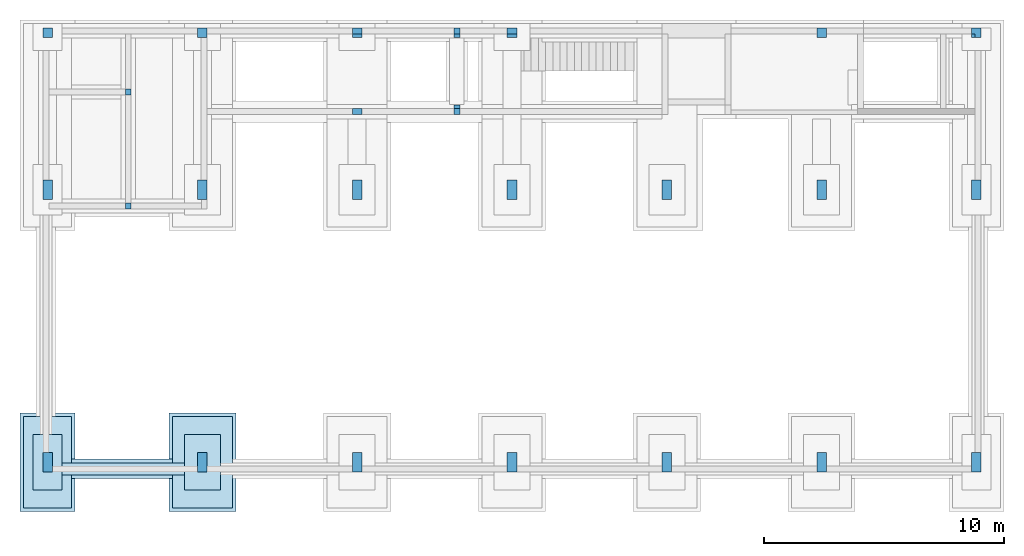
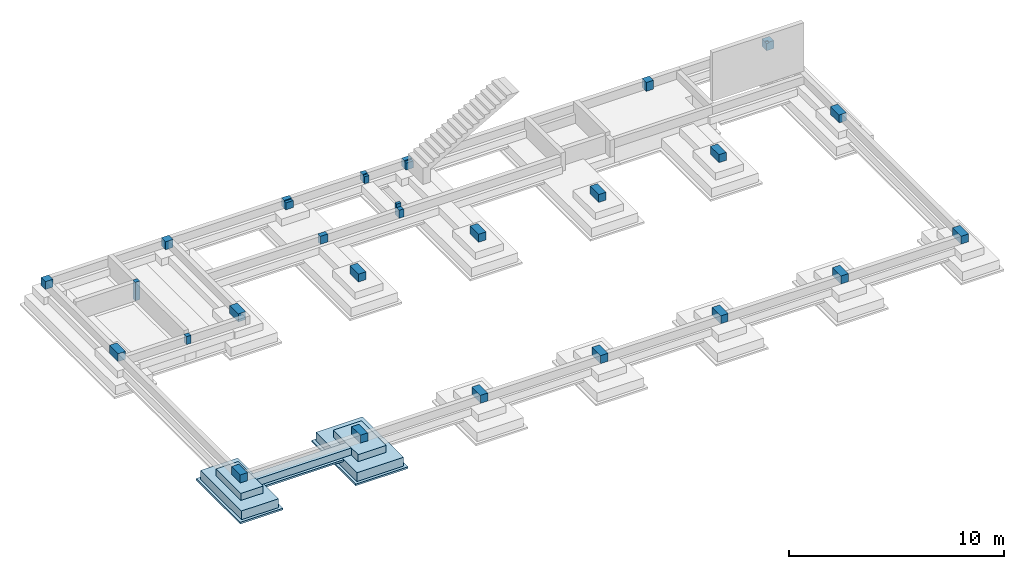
# One storey, part 1 of 6: 28 columns, 8 slabs.
"""IFC2X3 building model written with IfcOpenShell, lengths in centimetres."""

from ifc_helpers import new_model, entity, si_unit, converted_unit, derived_unit, direction, frame, frame_2d, origin, origin_2d_with_axis, place, context, subcontext, project, spatial, rectangle, extrude, faceted_brep, source, transform, mapped, material, layer, layer_set, layer_usage, type_object, type_shapes, element, save


model = new_model("IFC2X3")

# Units and contexts
model_context = context("Model", 3, precision=0.001, world=origin(), true_north=direction((6.12303176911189e-17, 1.0)))
body_context = subcontext(model_context, "Body", "Model", "MODEL_VIEW")
ifc_project = project(units=[si_unit("LENGTHUNIT", "METRE", prefix="CENTI"), si_unit("AREAUNIT", "SQUARE_METRE"), si_unit("VOLUMEUNIT", "CUBIC_METRE"), converted_unit("PLANEANGLEUNIT", "DEGREE", entity("IfcRatioMeasure", 0.0174532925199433), si_unit("PLANEANGLEUNIT", "RADIAN"), dimensions=[0, 0, 0, 0, 0, 0, 0]), si_unit("MASSUNIT", "GRAM", prefix="KILO"), derived_unit("MASSDENSITYUNIT", [(si_unit("MASSUNIT", "GRAM", prefix="KILO"), 1), (si_unit("LENGTHUNIT", "METRE"), -3)]), derived_unit("MOMENTOFINERTIAUNIT", [(si_unit("LENGTHUNIT", "METRE"), 4)]), si_unit("TIMEUNIT", "SECOND"), si_unit("FREQUENCYUNIT", "HERTZ"), si_unit("THERMODYNAMICTEMPERATUREUNIT", "DEGREE_CELSIUS"), derived_unit("THERMALTRANSMITTANCEUNIT", [(si_unit("MASSUNIT", "GRAM", prefix="KILO"), 1), (si_unit("THERMODYNAMICTEMPERATUREUNIT", "KELVIN"), -1), (si_unit("TIMEUNIT", "SECOND"), -3)]), derived_unit("VOLUMETRICFLOWRATEUNIT", [(si_unit("LENGTHUNIT", "METRE"), 3), (si_unit("TIMEUNIT", "SECOND"), -1)]), si_unit("ELECTRICCURRENTUNIT", "AMPERE"), si_unit("ELECTRICVOLTAGEUNIT", "VOLT"), si_unit("POWERUNIT", "WATT"), si_unit("FORCEUNIT", "NEWTON", prefix="KILO"), si_unit("ILLUMINANCEUNIT", "LUX"), si_unit("LUMINOUSFLUXUNIT", "LUMEN"), si_unit("LUMINOUSINTENSITYUNIT", "CANDELA"), derived_unit("USERDEFINED", [(si_unit("MASSUNIT", "GRAM", prefix="KILO"), -1), (si_unit("LENGTHUNIT", "METRE"), -2), (si_unit("TIMEUNIT", "SECOND"), 3), (si_unit("LUMINOUSFLUXUNIT", "LUMEN"), 1)]), derived_unit("LINEARVELOCITYUNIT", [(si_unit("LENGTHUNIT", "METRE"), 1), (si_unit("TIMEUNIT", "SECOND"), -1)]), si_unit("PRESSUREUNIT", "PASCAL"), derived_unit("USERDEFINED", [(si_unit("LENGTHUNIT", "METRE"), -2), (si_unit("MASSUNIT", "GRAM", prefix="KILO"), 1), (si_unit("TIMEUNIT", "SECOND"), -2)]), derived_unit("LINEARFORCEUNIT", [(si_unit("MASSUNIT", "GRAM", prefix="KILO"), 1), (si_unit("LENGTHUNIT", "METRE"), 1), (si_unit("TIMEUNIT", "SECOND"), -2), (si_unit("LENGTHUNIT", "METRE"), -1)]), derived_unit("PLANARFORCEUNIT", [(si_unit("MASSUNIT", "GRAM", prefix="KILO"), 1), (si_unit("LENGTHUNIT", "METRE"), 1), (si_unit("TIMEUNIT", "SECOND"), -2), (si_unit("LENGTHUNIT", "METRE"), -2)])], contexts=[model_context])

# Site, building, storey
site_placement = place(None, origin())
site = spatial("IfcSite", under=ifc_project, at=site_placement, Name="Default", CompositionType="ELEMENT")
building_placement = place(site_placement, origin())
building = spatial("IfcBuilding", under=site, at=building_placement, CompositionType="ELEMENT")
storey_placement = place(building_placement, frame((0.0, 0.0, -115.0)))
storey = spatial("IfcBuildingStorey", under=building, at=storey_placement, Name="Poziom Fundament -1,15", CompositionType="ELEMENT", Elevation=-115.0)

# Columns
ifc_material_1 = material(Name="_Beton, C25/30")
column_type_1 = type_object("IfcColumnType", Name="Beton-słup prostokątny:Słup żelbetowy 40x40cm", PredefinedType="COLUMN", material=ifc_material_1)
shared_shape_1 = source(origin(), body_context, "Body", "Brep", [
    faceted_brep([(40.0, 40.0, 0.0), (40.0, 0.0, 0.0), (15.0001164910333, 0.0, 0.0), (0.0, 0.0, 0.0), (0.0, 40.0, 0.0), (0.0, 40.0, 45.0), (40.0, 40.0, 45.0), (0.0, 0.0, 40.0), (0.0, 15.0000191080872, 40.0), (0.0, 15.0000191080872, 45.0), (40.0, 0.0, 45.0), (15.000003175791, 0.0, 45.0), (15.0000031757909, 0.0, 40.0), (15.000003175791, 15.0000191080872, 45.0), (15.000003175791, 15.0000191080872, 40.0)], [[[0, 1, 2, 3, 4]], [[0, 4, 5, 6]], [[4, 3, 7, 8, 9, 5]], [[3, 2, 1, 10, 11, 12, 7]], [[1, 0, 6, 10]], [[6, 5, 9, 13, 11, 10]], [[14, 8, 7, 12]], [[8, 14, 13, 9]], [[14, 12, 11, 13]]]),
])
type_shapes(column_type_1, [shared_shape_1])
column_1_placement = place(storey_placement, frame((935.734894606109, 2065.12743150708, 40.0)))
element("IfcColumn", 1, at=column_1_placement, inside=storey, type_object=column_type_1, material=ifc_material_1, Name="Beton-słup prostokątny:Słup żelbetowy 40x40cm", ObjectType="Beton-słup prostokątny:Słup żelbetowy 40x40cm", context=body_context, shape_type="MappedRepresentation", body=[
    mapped(shared_shape_1, transform((0.0, 0.0, 0.0), scale=1.0)),
])
column_type_2 = type_object("IfcColumnType", Name="Beton-słup prostokątny:Słup 40 x 80 cm", PredefinedType="COLUMN", material=ifc_material_1)
shared_shape_2 = source(origin(), body_context, "Body", "SweptSolid", [
    extrude(rectangle(XDim=80.0, YDim=40.0, at=origin_2d_with_axis()), frame((310.734891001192, 295.127431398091, -75.0), z_axis=(0.0, 0.0, 1.0), x_axis=(0.0, -1.0, 0.0)), (0.0, 0.0, 1.0), 45.0000000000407),
])
type_shapes(column_type_2, [shared_shape_2])
column_2_placement = place(storey_placement, frame((0.0, 0.0, 115.0)))
element("IfcColumn", 2, at=column_2_placement, inside=storey, type_object=column_type_2, Name="Beton-słup prostokątny:Słup 40 x 80 cm", ObjectType="Beton-słup prostokątny:Słup 40 x 80 cm", context=body_context, shape_type="MappedRepresentation", body=[
    mapped(shared_shape_2, transform((0.0, 0.0, 0.0), scale=1.0)),
])
column_type_3 = type_object("IfcColumnType", Name="Beton-słup prostokątny:Słup 40 x 80 cm", PredefinedType="COLUMN", material=ifc_material_1)
shared_shape_3 = source(origin(), body_context, "Body", "SweptSolid", [
    extrude(rectangle(XDim=80.0, YDim=40.0, at=origin_2d_with_axis()), frame((-334.265108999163, 295.127431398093, -75.0), z_axis=(0.0, 0.0, 1.0), x_axis=(0.0, -1.0, 0.0)), (0.0, 0.0, 1.0), 45.0000000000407),
])
type_shapes(column_type_3, [shared_shape_3])
column_3_placement = place(storey_placement, frame((0.0, 0.0, 115.0)))
element("IfcColumn", 3, at=column_3_placement, inside=storey, type_object=column_type_3, Name="Beton-słup prostokątny:Słup 40 x 80 cm", ObjectType="Beton-słup prostokątny:Słup 40 x 80 cm", context=body_context, shape_type="MappedRepresentation", body=[
    mapped(shared_shape_3, transform((0.0, 0.0, 0.0), scale=1.0)),
])
column_type_4 = type_object("IfcColumnType", Name="Beton-słup prostokątny:Słup 40 x 80 cm", PredefinedType="COLUMN", material=ifc_material_1)
shared_shape_4 = source(origin(), body_context, "Body", "SweptSolid", [
    extrude(rectangle(XDim=80.0, YDim=40.0, at=origin_2d_with_axis()), frame((-979.265108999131, 295.127431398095, -75.0), z_axis=(0.0, 0.0, 1.0), x_axis=(0.0, -1.0, 0.0)), (0.0, 0.0, 1.0), 45.0000000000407),
])
type_shapes(column_type_4, [shared_shape_4])
column_4_placement = place(storey_placement, frame((0.0, 0.0, 115.0)))
element("IfcColumn", 4, at=column_4_placement, inside=storey, type_object=column_type_4, Name="Beton-słup prostokątny:Słup 40 x 80 cm", ObjectType="Beton-słup prostokątny:Słup 40 x 80 cm", context=body_context, shape_type="MappedRepresentation", body=[
    mapped(shared_shape_4, transform((0.0, 0.0, 0.0), scale=1.0)),
])
column_type_5 = type_object("IfcColumnType", Name="Beton-słup prostokątny:Słup 40 x 80 cm", PredefinedType="COLUMN", material=ifc_material_1)
shared_shape_5 = source(origin(), body_context, "Body", "SweptSolid", [
    extrude(rectangle(XDim=80.0, YDim=40.0, at=origin_2d_with_axis()), frame((-1624.26510899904, 295.127431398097, -75.0), z_axis=(0.0, 0.0, 1.0), x_axis=(0.0, -1.0, 0.0)), (0.0, 0.0, 1.0), 45.0000000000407),
])
type_shapes(column_type_5, [shared_shape_5])
column_5_placement = place(storey_placement, frame((0.0, 0.0, 115.0)))
element("IfcColumn", 5, at=column_5_placement, inside=storey, type_object=column_type_5, Name="Beton-słup prostokątny:Słup 40 x 80 cm", ObjectType="Beton-słup prostokątny:Słup 40 x 80 cm", context=body_context, shape_type="MappedRepresentation", body=[
    mapped(shared_shape_5, transform((0.0, 0.0, 0.0), scale=1.0)),
])
column_type_6 = type_object("IfcColumnType", Name="Beton-słup prostokątny:Słup 40 x 80 cm", PredefinedType="COLUMN", material=ifc_material_1)
shared_shape_6 = source(origin(), body_context, "Body", "SweptSolid", [
    extrude(rectangle(XDim=80.0, YDim=40.0, at=frame_2d((0.0, -2.16715534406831e-13), x_axis=(1.0, 0.0))), frame((-2269.26510899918, 295.127431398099, -75.0), z_axis=(0.0, 0.0, 1.0), x_axis=(0.0, -1.0, 0.0)), (0.0, 0.0, 1.0), 45.0000000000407),
])
type_shapes(column_type_6, [shared_shape_6])
column_6_placement = place(storey_placement, frame((0.0, 0.0, 115.0)))
element("IfcColumn", 6, at=column_6_placement, inside=storey, type_object=column_type_6, Name="Beton-słup prostokątny:Słup 40 x 80 cm", ObjectType="Beton-słup prostokątny:Słup 40 x 80 cm", context=body_context, shape_type="MappedRepresentation", body=[
    mapped(shared_shape_6, transform((0.0, 0.0, 0.0), scale=1.0)),
])
column_type_7 = type_object("IfcColumnType", Name="Beton-słup prostokątny:Słup 40 x 80 cm", PredefinedType="COLUMN", material=ifc_material_1)
shared_shape_7 = source(origin(), body_context, "Body", "SweptSolid", [
    extrude(rectangle(XDim=80.0, YDim=40.0, at=frame_2d((0.0, 2.16715534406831e-13), x_axis=(1.0, 0.0))), frame((-2914.26510657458, 295.127431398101, -75.0), z_axis=(0.0, 0.0, 1.0), x_axis=(0.0, -1.0, 0.0)), (0.0, 0.0, 1.0), 45.0000000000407),
])
type_shapes(column_type_7, [shared_shape_7])
column_7_placement = place(storey_placement, frame((0.0, 0.0, 115.0)))
element("IfcColumn", 7, at=column_7_placement, inside=storey, type_object=column_type_7, Name="Beton-słup prostokątny:Słup 40 x 80 cm", ObjectType="Beton-słup prostokątny:Słup 40 x 80 cm", context=body_context, shape_type="MappedRepresentation", body=[
    mapped(shared_shape_7, transform((0.0, 0.0, 0.0), scale=1.0)),
])
column_type_8 = type_object("IfcColumnType", Name="Beton-słup prostokątny:Słup 40 x 80 cm", PredefinedType="COLUMN", material=ifc_material_1)
shared_shape_8 = source(origin(), body_context, "Body", "SweptSolid", [
    extrude(rectangle(XDim=80.0, YDim=40.0, at=origin_2d_with_axis()), frame((955.734894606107, 295.127431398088, -75.0), z_axis=(0.0, 0.0, 1.0), x_axis=(0.0, -1.0, 0.0)), (0.0, 0.0, 1.0), 45.0000000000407),
])
type_shapes(column_type_8, [shared_shape_8])
column_8_placement = place(storey_placement, frame((0.0, 0.0, 115.0)))
element("IfcColumn", 8, at=column_8_placement, inside=storey, type_object=column_type_8, Name="Beton-słup prostokątny:Słup 40 x 80 cm", ObjectType="Beton-słup prostokątny:Słup 40 x 80 cm", context=body_context, shape_type="MappedRepresentation", body=[
    mapped(shared_shape_8, transform((0.0, 0.0, 0.0), scale=1.0)),
])
column_type_9 = type_object("IfcColumnType", Name="Beton-słup prostokątny:Słup 40 x 80 cm", PredefinedType="COLUMN", material=ifc_material_1)
shared_shape_9 = source(origin(), body_context, "Body", "SweptSolid", [
    extrude(rectangle(XDim=80.0, YDim=40.0, at=origin_2d_with_axis()), frame((955.734894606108, 1430.12743164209, -75.0), z_axis=(0.0, 0.0, 1.0), x_axis=(0.0, -1.0, 0.0)), (0.0, 0.0, 1.0), 45.0000000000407),
])
type_shapes(column_type_9, [shared_shape_9])
column_9_placement = place(storey_placement, frame((0.0, 0.0, 115.0)))
element("IfcColumn", 9, at=column_9_placement, inside=storey, type_object=column_type_9, Name="Beton-słup prostokątny:Słup 40 x 80 cm", ObjectType="Beton-słup prostokątny:Słup 40 x 80 cm", context=body_context, shape_type="MappedRepresentation", body=[
    mapped(shared_shape_9, transform((0.0, 0.0, 0.0), scale=1.0)),
])
column_type_10 = type_object("IfcColumnType", Name="Beton-słup prostokątny:Słup 40 x 80 cm", PredefinedType="COLUMN", material=ifc_material_1)
shared_shape_10 = source(origin(), body_context, "Body", "SweptSolid", [
    extrude(rectangle(XDim=80.0, YDim=40.0, at=origin_2d_with_axis()), frame((310.735367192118, 1430.12743164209, -75.0), z_axis=(0.0, 0.0, 1.0), x_axis=(0.0, -1.0, 0.0)), (0.0, 0.0, 1.0), 45.0000000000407),
])
type_shapes(column_type_10, [shared_shape_10])
column_10_placement = place(storey_placement, frame((0.0, 0.0, 115.0)))
element("IfcColumn", 10, at=column_10_placement, inside=storey, type_object=column_type_10, Name="Beton-słup prostokątny:Słup 40 x 80 cm", ObjectType="Beton-słup prostokątny:Słup 40 x 80 cm", context=body_context, shape_type="MappedRepresentation", body=[
    mapped(shared_shape_10, transform((0.0, 0.0, 0.0), scale=1.0)),
])
column_type_11 = type_object("IfcColumnType", Name="Beton-słup prostokątny:Słup 40 x 80 cm", PredefinedType="COLUMN", material=ifc_material_1)
shared_shape_11 = source(origin(), body_context, "Body", "SweptSolid", [
    extrude(rectangle(XDim=80.0, YDim=40.0, at=origin_2d_with_axis()), frame((-334.264632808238, 1430.12743164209, -75.0), z_axis=(0.0, 0.0, 1.0), x_axis=(0.0, -1.0, 0.0)), (0.0, 0.0, 1.0), 45.0000000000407),
])
type_shapes(column_type_11, [shared_shape_11])
column_11_placement = place(storey_placement, frame((0.0, 0.0, 115.0)))
element("IfcColumn", 11, at=column_11_placement, inside=storey, type_object=column_type_11, Name="Beton-słup prostokątny:Słup 40 x 80 cm", ObjectType="Beton-słup prostokątny:Słup 40 x 80 cm", context=body_context, shape_type="MappedRepresentation", body=[
    mapped(shared_shape_11, transform((0.0, 0.0, 0.0), scale=1.0)),
])
column_type_12 = type_object("IfcColumnType", Name="Beton-słup prostokątny:Słup 40 x 80 cm", PredefinedType="COLUMN", material=ifc_material_1)
shared_shape_12 = source(origin(), body_context, "Body", "SweptSolid", [
    extrude(rectangle(XDim=80.0, YDim=40.0, at=origin_2d_with_axis()), frame((-979.264632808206, 1430.12743164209, -75.0), z_axis=(0.0, 0.0, 1.0), x_axis=(0.0, -1.0, 0.0)), (0.0, 0.0, 1.0), 45.0000000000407),
])
type_shapes(column_type_12, [shared_shape_12])
column_12_placement = place(storey_placement, frame((0.0, 0.0, 115.0)))
element("IfcColumn", 12, at=column_12_placement, inside=storey, type_object=column_type_12, Name="Beton-słup prostokątny:Słup 40 x 80 cm", ObjectType="Beton-słup prostokątny:Słup 40 x 80 cm", context=body_context, shape_type="MappedRepresentation", body=[
    mapped(shared_shape_12, transform((0.0, 0.0, 0.0), scale=1.0)),
])
column_type_13 = type_object("IfcColumnType", Name="Beton-słup prostokątny:Słup 40 x 80 cm", PredefinedType="COLUMN", material=ifc_material_1)
shared_shape_13 = source(origin(), body_context, "Body", "SweptSolid", [
    extrude(rectangle(XDim=80.0, YDim=40.0, at=origin_2d_with_axis()), frame((-1624.26463280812, 1430.1274316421, -75.0), z_axis=(0.0, 0.0, 1.0), x_axis=(0.0, -1.0, 0.0)), (0.0, 0.0, 1.0), 45.0000000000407),
])
type_shapes(column_type_13, [shared_shape_13])
column_13_placement = place(storey_placement, frame((0.0, 0.0, 115.0)))
element("IfcColumn", 13, at=column_13_placement, inside=storey, type_object=column_type_13, Name="Beton-słup prostokątny:Słup 40 x 80 cm", ObjectType="Beton-słup prostokątny:Słup 40 x 80 cm", context=body_context, shape_type="MappedRepresentation", body=[
    mapped(shared_shape_13, transform((0.0, 0.0, 0.0), scale=1.0)),
])
column_type_14 = type_object("IfcColumnType", Name="Beton-słup prostokątny:Słup 40 x 80 cm", PredefinedType="COLUMN", material=ifc_material_1)
shared_shape_14 = source(origin(), body_context, "Body", "SweptSolid", [
    extrude(rectangle(XDim=80.0, YDim=40.0, at=frame_2d((0.0, -2.16715534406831e-13), x_axis=(1.0, 0.0))), frame((-2269.26463280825, 1430.1274316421, -75.0), z_axis=(0.0, 0.0, 1.0), x_axis=(0.0, -1.0, 0.0)), (0.0, 0.0, 1.0), 45.0000000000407),
])
type_shapes(column_type_14, [shared_shape_14])
column_14_placement = place(storey_placement, frame((0.0, 0.0, 115.0)))
element("IfcColumn", 14, at=column_14_placement, inside=storey, type_object=column_type_14, Name="Beton-słup prostokątny:Słup 40 x 80 cm", ObjectType="Beton-słup prostokątny:Słup 40 x 80 cm", context=body_context, shape_type="MappedRepresentation", body=[
    mapped(shared_shape_14, transform((0.0, 0.0, 0.0), scale=1.0)),
])
column_type_15 = type_object("IfcColumnType", Name="Beton-słup prostokątny:Słup 40 x 80 cm", PredefinedType="COLUMN", material=ifc_material_1)
shared_shape_15 = source(origin(), body_context, "Body", "SweptSolid", [
    extrude(rectangle(XDim=80.0, YDim=40.0, at=frame_2d((0.0, -2.16715534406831e-13), x_axis=(1.0, 0.0))), frame((-2914.26463038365, 1430.1274316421, -75.0), z_axis=(0.0, 0.0, 1.0), x_axis=(0.0, -1.0, 0.0)), (0.0, 0.0, 1.0), 45.0000000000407),
])
type_shapes(column_type_15, [shared_shape_15])
column_15_placement = place(storey_placement, frame((0.0, 0.0, 115.0)))
element("IfcColumn", 15, at=column_15_placement, inside=storey, type_object=column_type_15, Name="Beton-słup prostokątny:Słup 40 x 80 cm", ObjectType="Beton-słup prostokątny:Słup 40 x 80 cm", context=body_context, shape_type="MappedRepresentation", body=[
    mapped(shared_shape_15, transform((0.0, 0.0, 0.0), scale=1.0)),
])
column_type_16 = type_object("IfcColumnType", Name="Beton-słup prostokątny:Słup żelbetowy 40x40cm", PredefinedType="COLUMN", material=ifc_material_1)
shared_shape_16 = source(origin(), body_context, "Body", "SweptSolid", [
    extrude(rectangle(XDim=40.0, YDim=40.0, at=origin_2d_with_axis()), frame((310.734894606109, 2085.12743150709, -80.0), z_axis=(0.0, 0.0, 1.0), x_axis=(0.0, -1.0, 0.0)), (0.0, 0.0, 1.0), 50.0000000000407),
])
type_shapes(column_type_16, [shared_shape_16])
column_16_placement = place(storey_placement, frame((0.0, 0.0, 115.0)))
element("IfcColumn", 16, at=column_16_placement, inside=storey, type_object=column_type_16, Name="Beton-słup prostokątny:Słup żelbetowy 40x40cm", ObjectType="Beton-słup prostokątny:Słup żelbetowy 40x40cm", context=body_context, shape_type="MappedRepresentation", body=[
    mapped(shared_shape_16, transform((0.0, 0.0, 0.0), scale=1.0)),
])
column_type_17 = type_object("IfcColumnType", Name="Beton-słup prostokątny:Słup żelbetowy 40x40cm", PredefinedType="COLUMN", material=ifc_material_1)
shared_shape_17 = source(origin(), body_context, "Body", "Brep", [
    faceted_brep([(40.0, 40.0, 0.0), (40.0, 15.0, 0.0), (40.0, 0.0, 0.0), (0.0, 0.0, 0.0), (0.0, 15.0, 0.0), (0.0, 40.0, 0.0), (0.0, 40.0, 45.0), (40.0, 40.0, 45.0), (0.0, 0.0, 40.0), (0.0, 15.0000191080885, 40.0), (0.0, 15.0000191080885, 45.0), (40.0, 0.0, 40.0), (40.0, 15.0000191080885, 45.0), (40.0, 15.0000191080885, 40.0), (40.0, 15.0, 45.0)], [[[0, 1, 2, 3, 4, 5]], [[0, 5, 6, 7]], [[5, 4, 3, 8, 9, 10, 6]], [[3, 2, 11, 8]], [[2, 1, 0, 7, 12, 13, 11]], [[7, 6, 10, 14]], [[13, 9, 8, 11]], [[9, 13, 12, 10]]]),
])
type_shapes(column_type_17, [shared_shape_17])
column_17_placement = place(storey_placement, frame((-999.265105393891, 2065.12743150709, 40.0)))
element("IfcColumn", 17, at=column_17_placement, inside=storey, type_object=column_type_17, material=ifc_material_1, Name="Beton-słup prostokątny:Słup żelbetowy 40x40cm", ObjectType="Beton-słup prostokątny:Słup żelbetowy 40x40cm", context=body_context, shape_type="MappedRepresentation", body=[
    mapped(shared_shape_17, transform((0.0, 0.0, 0.0), scale=1.0)),
])
column_type_18 = type_object("IfcColumnType", Name="Beton-słup prostokątny:Słup żelbetowy 40x40cm", PredefinedType="COLUMN", material=ifc_material_1)
shared_shape_18 = source(origin(), body_context, "Body", "Brep", [
    faceted_brep([(40.0, 40.0, 0.0), (40.0, 0.0, 0.0), (0.0, 0.0, 0.0), (0.0, 15.0, 0.0), (0.0, 40.0, 0.0), (0.0, 40.0, 45.0), (40.0, 40.0, 45.0), (0.0, 0.0, 40.0), (0.0, 15.0000191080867, 40.0), (0.0, 15.0, 45.0), (40.0, 0.0, 40.0), (40.0, 15.0000191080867, 45.0), (40.0, 15.0000191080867, 40.0), (0.0, 15.0000191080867, 45.0), (40.0, 15.0, 45.0)], [[[0, 1, 2, 3, 4]], [[0, 4, 5, 6]], [[4, 3, 2, 7, 8, 9, 5]], [[2, 1, 10, 7]], [[1, 0, 6, 11, 12, 10]], [[6, 5, 13, 14]], [[12, 8, 7, 10]], [[8, 12, 11, 13]]]),
])
type_shapes(column_type_18, [shared_shape_18])
column_18_placement = place(storey_placement, frame((-1644.26510899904, 2065.12743150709, 40.0)))
element("IfcColumn", 18, at=column_18_placement, inside=storey, type_object=column_type_18, material=ifc_material_1, Name="Beton-słup prostokątny:Słup żelbetowy 40x40cm", ObjectType="Beton-słup prostokątny:Słup żelbetowy 40x40cm", context=body_context, shape_type="MappedRepresentation", body=[
    mapped(shared_shape_18, transform((0.0, 0.0, 0.0), scale=1.0)),
])
column_type_19 = type_object("IfcColumnType", Name="Beton-słup prostokątny:Słup żelbetowy 40x40cm", PredefinedType="COLUMN", material=ifc_material_1)
shared_shape_19 = source(origin(), body_context, "Body", "SweptSolid", [
    extrude(rectangle(XDim=40.0, YDim=40.0, at=frame_2d((0.0, -2.16715534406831e-13), x_axis=(1.0, 0.0))), frame((-2269.26510899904, 2085.12743150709, -75.0), z_axis=(0.0, 0.0, 1.0), x_axis=(0.0, -1.0, 0.0)), (0.0, 0.0, 1.0), 45.0000000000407),
])
type_shapes(column_type_19, [shared_shape_19])
column_19_placement = place(storey_placement, frame((0.0, 0.0, 115.0)))
element("IfcColumn", 19, at=column_19_placement, inside=storey, type_object=column_type_19, Name="Beton-słup prostokątny:Słup żelbetowy 40x40cm", ObjectType="Beton-słup prostokątny:Słup żelbetowy 40x40cm", context=body_context, shape_type="MappedRepresentation", body=[
    mapped(shared_shape_19, transform((0.0, 0.0, 0.0), scale=1.0)),
])
column_type_20 = type_object("IfcColumnType", Name="Beton-słup prostokątny:Słup żelbetowy 40x40cm", PredefinedType="COLUMN", material=ifc_material_1)
shared_shape_20 = source(origin(), body_context, "Body", "SweptSolid", [
    extrude(rectangle(XDim=40.0, YDim=40.0, at=frame_2d((2.16715534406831e-13, 2.16715534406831e-13), x_axis=(1.0, 0.0))), frame((-2914.26511017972, 2085.1274315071, -75.0), z_axis=(0.0, 0.0, 1.0), x_axis=(0.0, -1.0, 0.0)), (0.0, 0.0, 1.0), 45.0000000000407),
])
type_shapes(column_type_20, [shared_shape_20])
column_20_placement = place(storey_placement, frame((0.0, 0.0, 115.0)))
element("IfcColumn", 20, at=column_20_placement, inside=storey, type_object=column_type_20, Name="Beton-słup prostokątny:Słup żelbetowy 40x40cm", ObjectType="Beton-słup prostokątny:Słup żelbetowy 40x40cm", context=body_context, shape_type="MappedRepresentation", body=[
    mapped(shared_shape_20, transform((0.0, 0.0, 0.0), scale=1.0)),
])
column_type_21 = type_object("IfcColumnType", Name="Beton-słup prostokątny:Słup 25 x 40 cm", PredefinedType="COLUMN", material=ifc_material_1)
shared_shape_21 = source(origin(), body_context, "Body", "SweptSolid", [
    extrude(rectangle(XDim=24.9999999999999, YDim=39.9999999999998, at=origin_2d_with_axis()), frame((-1624.26500681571, 1755.62745200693, -75.0), z_axis=(0.0, 0.0, 1.0), x_axis=(0.0, -1.0, 0.0)), (0.0, 0.0, 1.0), 45.0000000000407),
])
type_shapes(column_type_21, [shared_shape_21])
column_21_placement = place(storey_placement, frame((0.0, 0.0, 115.0)))
element("IfcColumn", 21, at=column_21_placement, inside=storey, type_object=column_type_21, Name="Beton-słup prostokątny:Słup 25 x 40 cm", ObjectType="Beton-słup prostokątny:Słup 25 x 40 cm", context=body_context, shape_type="MappedRepresentation", body=[
    mapped(shared_shape_21, transform((0.0, 0.0, 0.0), scale=1.0)),
])
column_type_22 = type_object("IfcColumnType", Name="Beton-słup prostokątny:Słup 25 x 40 cm", PredefinedType="COLUMN", material=ifc_material_1)
shared_shape_22 = source(origin(), body_context, "Body", "Brep", [
    faceted_brep([(25.0, 40.0, 65.0), (0.0, 40.0, 65.0), (0.0, 25.000020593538, 65.0), (25.0, 25.000020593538, 65.0), (25.0, 40.0, 0.0), (25.0, 0.0, 0.0), (0.0, 0.0, 0.0), (0.0, 25.0000205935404, 0.0), (0.0, 40.0, 0.0), (25.0, 40.0, 40.0), (0.0, 40.0, 40.0), (0.0, 0.0, 45.0), (0.0, 25.000020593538, 45.0), (25.0, 0.0, 45.0), (25.0, 25.0000205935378, 45.0)], [[[0, 1, 2, 3]], [[4, 5, 6, 7, 8]], [[1, 0, 9, 4, 8, 10]], [[8, 7, 6, 11, 12, 2, 1, 10]], [[6, 5, 13, 11]], [[5, 4, 9, 0, 3, 14, 13]], [[12, 11, 13, 14]], [[3, 2, 12, 14]]]),
])
type_shapes(column_type_22, [shared_shape_22])
column_22_placement = place(storey_placement, frame((-1221.76499418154, 1743.12743141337, 40.0)))
element("IfcColumn", 22, at=column_22_placement, inside=storey, type_object=column_type_22, material=ifc_material_1, Name="Beton-słup prostokątny:Słup 25 x 40 cm", ObjectType="Beton-słup prostokątny:Słup 25 x 40 cm", context=body_context, shape_type="MappedRepresentation", body=[
    mapped(shared_shape_22, transform((0.0, 0.0, 0.0), scale=1.0)),
])
column_type_23 = type_object("IfcColumnType", Name="Beton-słup prostokątny:Słup 25 x 40 cm", PredefinedType="COLUMN", material=ifc_material_1)
shared_shape_23 = source(origin(), body_context, "Body", "Brep", [
    faceted_brep([(25.0, 40.0, 0.0), (25.0, 0.0, 0.0), (0.0, 0.0, 0.0), (0.0, 14.9999812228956, 0.0), (0.0, 40.0, 0.0), (0.0, 40.0, 45.0), (25.0, 40.0, 45.0), (0.0, 0.0, 40.0), (0.0, 15.0000003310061, 40.0), (0.0, 15.0000003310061, 45.0), (25.0, 0.0, 40.0), (25.0, 15.0000003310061, 45.0), (25.0, 15.0000003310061, 40.0)], [[[0, 1, 2, 3, 4]], [[0, 4, 5, 6]], [[4, 3, 2, 7, 8, 9, 5]], [[2, 1, 10, 7]], [[1, 0, 6, 11, 12, 10]], [[8, 7, 10, 12]], [[8, 12, 11, 9]], [[6, 5, 9, 11]]]),
])
type_shapes(column_type_23, [shared_shape_23])
column_23_placement = place(storey_placement, frame((-1221.76499418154, 2065.12745028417, 40.0)))
element("IfcColumn", 23, at=column_23_placement, inside=storey, type_object=column_type_23, material=ifc_material_1, Name="Beton-słup prostokątny:Słup 25 x 40 cm", ObjectType="Beton-słup prostokątny:Słup 25 x 40 cm", context=body_context, shape_type="MappedRepresentation", body=[
    mapped(shared_shape_23, transform((0.0, 0.0, 0.0), scale=1.0)),
])
column_type_24 = type_object("IfcColumnType", Name="Beton-słup prostokątny:Słup 24 x 24 cm", PredefinedType="COLUMN", material=ifc_material_1)
shared_shape_24 = source(origin(), body_context, "Body", "SweptSolid", [
    extrude(rectangle(XDim=23.9999999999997, YDim=24.0000000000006, at=origin_2d_with_axis()), frame((-2578.26510774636, 1837.5274520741, -115.0), z_axis=(0.0, 0.0, 1.0), x_axis=(0.0, -1.0, 0.0)), (0.0, 0.0, 1.0), 105.0),
])
type_shapes(column_type_24, [shared_shape_24])
column_24_placement = place(storey_placement, frame((0.0, 0.0, 115.0)))
element("IfcColumn", 24, at=column_24_placement, inside=storey, type_object=column_type_24, Name="Beton-słup prostokątny:Słup 24 x 24 cm", ObjectType="Beton-słup prostokątny:Słup 24 x 24 cm", context=body_context, shape_type="MappedRepresentation", body=[
    mapped(shared_shape_24, transform((0.0, 0.0, 0.0), scale=1.0)),
])
column_type_25 = type_object("IfcColumnType", Name="Beton-słup prostokątny:Słup 24 x 24 cm", PredefinedType="COLUMN", material=ifc_material_1)
shared_shape_25 = source(origin(), body_context, "Body", "SweptSolid", [
    extrude(rectangle(XDim=23.9999999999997, YDim=24.0000000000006, at=origin_2d_with_axis()), frame((-2578.26510774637, 1362.5274520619, -75.0), z_axis=(0.0, 0.0, 1.0), x_axis=(0.0, -1.0, 0.0)), (0.0, 0.0, 1.0), 45.0000000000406),
])
type_shapes(column_type_25, [shared_shape_25])
column_25_placement = place(storey_placement, frame((0.0, 0.0, 115.0)))
element("IfcColumn", 25, at=column_25_placement, inside=storey, type_object=column_type_25, Name="Beton-słup prostokątny:Słup 24 x 24 cm", ObjectType="Beton-słup prostokątny:Słup 24 x 24 cm", context=body_context, shape_type="MappedRepresentation", body=[
    mapped(shared_shape_25, transform((0.0, 0.0, 0.0), scale=1.0)),
])
ifc_material_2 = material(Name="<Unnamed>")
column_type_26 = type_object("IfcColumnType", Name="Beton-słup prostokątny:S3", PredefinedType="COLUMN", material=ifc_material_2)
shared_shape_26 = source(origin(), body_context, "Body", "SweptSolid", [
    extrude(rectangle(XDim=40.0, YDim=40.0, at=frame_2d((2.16715534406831e-13, -2.16715534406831e-13), x_axis=(1.0, 0.0))), frame((-2914.26510657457, 2085.12745207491, -75.0), z_axis=(0.0, 0.0, 1.0), x_axis=(0.0, -1.0, 0.0)), (0.0, 0.0, 1.0), 45.0000000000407),
])
type_shapes(column_type_26, [shared_shape_26])
column_26_placement = place(storey_placement, frame((0.0, 0.0, 115.0)))
element("IfcColumn", 26, at=column_26_placement, inside=storey, type_object=column_type_26, Name="Beton-słup prostokątny:S3", ObjectType="Beton-słup prostokątny:S3", context=body_context, shape_type="MappedRepresentation", body=[
    mapped(shared_shape_26, transform((0.0, 0.0, 0.0), scale=1.0)),
])
column_type_27 = type_object("IfcColumnType", Name="Beton-słup prostokątny:Słup żelbetowy 40x40cm", PredefinedType="COLUMN", material=ifc_material_1)
shared_shape_27 = source(origin(), body_context, "Body", "SweptSolid", [
    extrude(rectangle(XDim=40.0, YDim=40.0, at=frame_2d((0.0, -2.16715534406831e-13), x_axis=(1.0, 0.0))), frame((-2269.26510899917, 2085.12745207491, -75.0), z_axis=(0.0, 0.0, 1.0), x_axis=(0.0, -1.0, 0.0)), (0.0, 0.0, 1.0), 45.0000000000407),
])
type_shapes(column_type_27, [shared_shape_27])
column_27_placement = place(storey_placement, frame((0.0, 0.0, 115.0)))
element("IfcColumn", 27, at=column_27_placement, inside=storey, type_object=column_type_27, Name="Beton-słup prostokątny:Słup żelbetowy 40x40cm", ObjectType="Beton-słup prostokątny:Słup żelbetowy 40x40cm", context=body_context, shape_type="MappedRepresentation", body=[
    mapped(shared_shape_27, transform((0.0, 0.0, 0.0), scale=1.0)),
])
column_type_28 = type_object("IfcColumnType", Name="Beton-słup prostokątny:Słup żelbetowy 40x40cm", PredefinedType="COLUMN", material=ifc_material_1)
shared_shape_28 = source(origin(), body_context, "Body", "SweptSolid", [
    extrude(rectangle(XDim=40.0, YDim=40.0, at=frame_2d((2.16715534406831e-13, -2.16715534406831e-13), x_axis=(1.0, 0.0))), frame((-2914.26510657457, 2085.12745207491, -75.0), z_axis=(0.0, 0.0, 1.0), x_axis=(0.0, -1.0, 0.0)), (0.0, 0.0, 1.0), 45.0000000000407),
])
type_shapes(column_type_28, [shared_shape_28])
column_28_placement = place(storey_placement, frame((0.0, 0.0, 115.0)))
element("IfcColumn", 28, at=column_28_placement, inside=storey, type_object=column_type_28, Name="Beton-słup prostokątny:Słup żelbetowy 40x40cm", ObjectType="Beton-słup prostokątny:Słup żelbetowy 40x40cm", context=body_context, shape_type="MappedRepresentation", body=[
    mapped(shared_shape_28, transform((0.0, 0.0, 0.0), scale=1.0)),
])

# Slabs
ifc_layer_1 = layer(ifc_material_1, 50.0)
ifc_layer_set_1 = layer_set([ifc_layer_1], Name="Strop:SF 250 x 380 x 50 cm")
ifc_layer_usage_1 = layer_usage(ifc_layer_set_1, "AXIS3", "POSITIVE", 0.0)
slab_type_1 = type_object("IfcSlabType", Name="Strop:SF 250 x 380 x 50 cm", PredefinedType="FLOOR", material=ifc_layer_set_1)
slab_1_placement = place(storey_placement, origin())
element("IfcSlab", 29, at=slab_1_placement, inside=storey, type_object=slab_type_1, material=ifc_layer_usage_1, Name="Strop:SF 250 x 380 x 50 cm", ObjectType="Strop:SF 250 x 380 x 50 cm", PredefinedType="FLOOR", context=body_context, shape_type="SweptSolid", body=[
    extrude(rectangle(XDim=380.000015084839, YDim=250.00004770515, at=origin_2d_with_axis()), frame((-2269.26496511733, 295.127457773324, 0.0), z_axis=(0.0, 0.0, -1.0), x_axis=(0.0, 1.0, 0.0)), (0.0, 0.0, 1.0), 50.0),
])
ifc_layer_2 = layer(ifc_material_1, 50.0)
ifc_layer_set_2 = layer_set([ifc_layer_2], Name="Strop:SF 200 x 380 x 50 cm")
ifc_layer_usage_2 = layer_usage(ifc_layer_set_2, "AXIS3", "POSITIVE", 0.0)
slab_type_2 = type_object("IfcSlabType", Name="Strop:SF 200 x 380 x 50 cm", PredefinedType="FLOOR", material=ifc_layer_set_2)
slab_2_placement = place(storey_placement, origin())
element("IfcSlab", 30, at=slab_2_placement, inside=storey, type_object=slab_type_2, material=ifc_layer_usage_2, Name="Strop:SF 200 x 380 x 50 cm", ObjectType="Strop:SF 200 x 380 x 50 cm", PredefinedType="FLOOR", context=body_context, shape_type="SweptSolid", body=[
    extrude(rectangle(XDim=380.000015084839, YDim=199.999944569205, at=origin_2d_with_axis()), frame((-2914.2650166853, 295.127457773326, 0.0), z_axis=(0.0, 0.0, -1.0), x_axis=(0.0, 1.0, 0.0)), (0.0, 0.0, 1.0), 50.0),
])
ifc_layer_3 = layer(ifc_material_1, 40.0)
ifc_layer_set_3 = layer_set([ifc_layer_3], Name="Strop:SF 150 x 230 x 40 cm")
ifc_layer_usage_3 = layer_usage(ifc_layer_set_3, "AXIS3", "POSITIVE", 0.0)
slab_type_3 = type_object("IfcSlabType", Name="Strop:SF 150 x 230 x 40 cm", PredefinedType="FLOOR", material=ifc_layer_set_3)
slab_3_placement = place(storey_placement, origin())
element("IfcSlab", 31, at=slab_3_placement, inside=storey, type_object=slab_type_3, material=ifc_layer_usage_3, Name="Strop:SF 150 x 230 x 40 cm", ObjectType="Strop:SF 150 x 230 x 40 cm", PredefinedType="FLOOR", context=body_context, shape_type="SweptSolid", body=[
    extrude(rectangle(XDim=229.999999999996, YDim=150.000000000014, at=origin_2d_with_axis()), frame((-2269.26498896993, 295.127431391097, 40.0), z_axis=(0.0, 0.0, -1.0), x_axis=(0.0, 1.0, 0.0)), (0.0, 0.0, 1.0), 40.0),
])
ifc_layer_4 = layer(ifc_material_1, 40.0)
ifc_layer_set_4 = layer_set([ifc_layer_4], Name="Strop:SF 120 x 230 x 40 cm")
ifc_layer_usage_4 = layer_usage(ifc_layer_set_4, "AXIS3", "POSITIVE", 0.0)
slab_type_4 = type_object("IfcSlabType", Name="Strop:SF 120 x 230 x 40 cm", PredefinedType="FLOOR", material=ifc_layer_set_4)
slab_4_placement = place(storey_placement, origin())
element("IfcSlab", 32, at=slab_4_placement, inside=storey, type_object=slab_type_4, material=ifc_layer_usage_4, Name="Strop:SF 120 x 230 x 40 cm", ObjectType="Strop:SF 120 x 230 x 40 cm", PredefinedType="FLOOR", context=body_context, shape_type="SweptSolid", body=[
    extrude(rectangle(XDim=229.999999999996, YDim=119.998643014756, at=origin_2d_with_axis()), frame((-2914.26572289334, 295.127431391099, 40.0), z_axis=(0.0, 0.0, -1.0), x_axis=(0.0, 1.0, 0.0)), (0.0, 0.0, 1.0), 40.0),
])
ifc_layer_5 = layer(ifc_material_1, 40.0)
ifc_layer_set_5 = layer_set([ifc_layer_5], Name="Strop:Ława fundamentowa gr. 40cm")
ifc_layer_usage_5 = layer_usage(ifc_layer_set_5, "AXIS3", "POSITIVE", 0.0)
slab_type_5 = type_object("IfcSlabType", Name="Strop:Ława fundamentowa gr. 40cm", PredefinedType="FLOOR", material=ifc_layer_set_5)
slab_5_placement = place(storey_placement, origin())
element("IfcSlab", 33, at=slab_5_placement, inside=storey, type_object=slab_type_5, material=ifc_layer_usage_5, Name="Strop:Ława fundamentowa gr. 40cm", ObjectType="Strop:Ława fundamentowa gr. 40cm", PredefinedType="FLOOR", context=body_context, shape_type="SweptSolid", body=[
    extrude(rectangle(XDim=50.0000000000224, YDim=510.001412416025, at=frame_2d((-1.4210854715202e-14, -2.1316282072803e-13), x_axis=(1.0, 0.0))), frame((-2599.26569517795, 267.627452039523, 40.0), z_axis=(0.0, 0.0, -1.0), x_axis=(0.0, 1.0, 0.0)), (0.0, 0.0, 1.0), 40.0),
])
ifc_material_3 = material(Name="Beton zacierany")
ifc_layer_6 = layer(ifc_material_3, 10.0)
ifc_layer_set_6 = layer_set([ifc_layer_6], Name="Strop:Chudy beton gr. 10cm")
ifc_layer_usage_6 = layer_usage(ifc_layer_set_6, "AXIS3", "POSITIVE", 0.0)
slab_type_6 = type_object("IfcSlabType", Name="Strop:Chudy beton gr. 10cm", PredefinedType="FLOOR", material=ifc_layer_set_6)
slab_6_placement = place(storey_placement, origin())
element("IfcSlab", 34, at=slab_6_placement, inside=storey, type_object=slab_type_6, material=ifc_layer_usage_6, Name="Strop:Chudy beton gr. 10cm", ObjectType="Strop:Chudy beton gr. 10cm", PredefinedType="FLOOR", context=body_context, shape_type="SweptSolid", body=[
    extrude(rectangle(XDim=410.000015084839, YDim=280.00004770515, at=frame_2d((2.8421709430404e-14, 0.0), x_axis=(1.0, 0.0))), frame((-2269.26496511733, 295.127457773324, -50.0), z_axis=(0.0, 0.0, -1.0), x_axis=(0.0, 1.0, 0.0)), (0.0, 0.0, 1.0), 10.0),
])
ifc_layer_usage_7 = layer_usage(ifc_layer_set_6, "AXIS3", "POSITIVE", 0.0)
slab_type_7 = type_object("IfcSlabType", Name="Strop:Chudy beton gr. 10cm", PredefinedType="FLOOR", material=ifc_layer_set_6)
slab_7_placement = place(storey_placement, origin())
element("IfcSlab", 35, at=slab_7_placement, inside=storey, type_object=slab_type_7, material=ifc_layer_usage_7, Name="Strop:Chudy beton gr. 10cm", ObjectType="Strop:Chudy beton gr. 10cm", PredefinedType="FLOOR", context=body_context, shape_type="SweptSolid", body=[
    extrude(rectangle(XDim=410.000015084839, YDim=229.999944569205, at=frame_2d((2.8421709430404e-14, 0.0), x_axis=(1.0, 0.0))), frame((-2914.2650166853, 295.127457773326, -50.0), z_axis=(0.0, 0.0, -1.0), x_axis=(0.0, 1.0, 0.0)), (0.0, 0.0, 1.0), 10.0),
])
ifc_layer_usage_8 = layer_usage(ifc_layer_set_6, "AXIS3", "POSITIVE", 0.0)
slab_type_8 = type_object("IfcSlabType", Name="Strop:Chudy beton gr. 10cm", PredefinedType="FLOOR", material=ifc_layer_set_6)
slab_8_placement = place(storey_placement, origin())
element("IfcSlab", 36, at=slab_8_placement, inside=storey, type_object=slab_type_8, material=ifc_layer_usage_8, Name="Strop:Chudy beton gr. 10cm", ObjectType="Strop:Chudy beton gr. 10cm", PredefinedType="FLOOR", context=body_context, shape_type="SweptSolid", body=[
    extrude(rectangle(XDim=80.0000000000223, YDim=420.000055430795, at=frame_2d((2.8421709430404e-14, 0.0), x_axis=(1.0, 0.0))), frame((-2604.2650166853, 267.627452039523, 0.0), z_axis=(0.0, 0.0, -1.0), x_axis=(0.0, 1.0, 0.0)), (0.0, 0.0, 1.0), 10.0),
])

save(model, "model.ifc")
